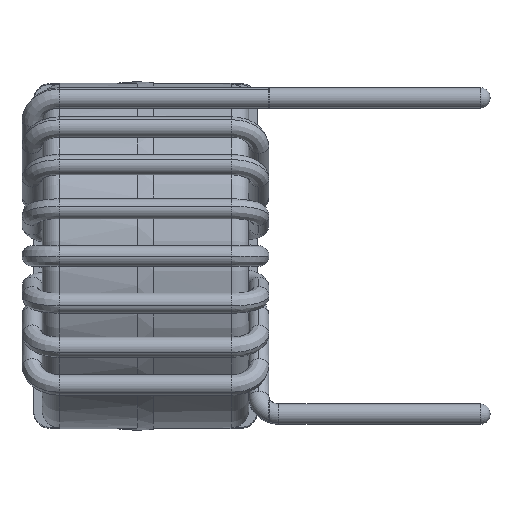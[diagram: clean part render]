
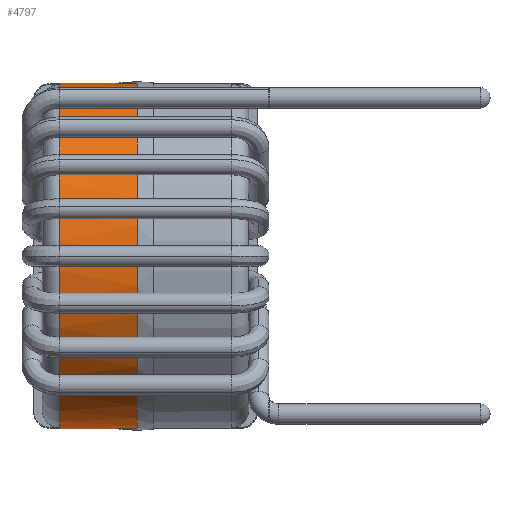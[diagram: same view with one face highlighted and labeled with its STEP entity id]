
A CAD part, left-side view. The second image highlights one B-rep face of the part: STEP entity #4797.
In plain terms, the highlighted cylindrical face has radius 10.207 mm (diameter 20.414 mm), a partial arc.
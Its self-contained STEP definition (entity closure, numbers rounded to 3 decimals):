
#65 = CIRCLE ( 'NONE', #15953, 10.207 ) ;
#117 = ORIENTED_EDGE ( 'NONE', *, *, #13117, .T. ) ;
#160 = ORIENTED_EDGE ( 'NONE', *, *, #12485, .T. ) ;
#542 = ORIENTED_EDGE ( 'NONE', *, *, #3172, .F. ) ;
#743 = VERTEX_POINT ( 'NONE', #8814 ) ;
#952 = LINE ( 'NONE', #1912, #2549 ) ;
#987 = CIRCLE ( 'NONE', #16869, 10.207 ) ;
#1373 = CARTESIAN_POINT ( 'NONE',  ( 0., 6.104, 10.207 ) ) ;
#1409 = VERTEX_POINT ( 'NONE', #18285 ) ;
#1439 = CARTESIAN_POINT ( 'NONE',  ( 0., 5.625, 0. ) ) ;
#1558 = VERTEX_POINT ( 'NONE', #18097 ) ;
#1656 = CYLINDRICAL_SURFACE ( 'NONE', #10077, 10.207 ) ;
#1687 = AXIS2_PLACEMENT_3D ( 'NONE', #18663, #18977, #1862 ) ;
#1862 = DIRECTION ( 'NONE',  ( 0., 0., 1. ) ) ;
#1912 = CARTESIAN_POINT ( 'NONE',  ( -1.125, 6.625, 10.145 ) ) ;
#2095 = CIRCLE ( 'NONE', #15131, 10.207 ) ;
#2248 = DIRECTION ( 'NONE',  ( 0., 0., 1. ) ) ;
#2549 = VECTOR ( 'NONE', #17159, 1000. ) ;
#2910 = VECTOR ( 'NONE', #19201, 1000. ) ;
#2980 = VERTEX_POINT ( 'NONE', #6412 ) ;
#3023 = LINE ( 'NONE', #11771, #2910 ) ;
#3154 = CARTESIAN_POINT ( 'NONE',  ( -0.375, 5.104, -10.2 ) ) ;
#3172 = EDGE_CURVE ( 'NONE', #5497, #743, #3023, .T. ) ;
#3246 = CIRCLE ( 'NONE', #1687, 10.207 ) ;
#3519 = EDGE_CURVE ( 'NONE', #18907, #743, #987, .T. ) ;
#3698 = DIRECTION ( 'NONE',  ( 0., -1., 0. ) ) ;
#3769 = CARTESIAN_POINT ( 'NONE',  ( -0.375, 5.625, -10.2 ) ) ;
#4328 = CARTESIAN_POINT ( 'NONE',  ( 0., 5.104, 10.207 ) ) ;
#4340 = ORIENTED_EDGE ( 'NONE', *, *, #6638, .T. ) ;
#4671 = ORIENTED_EDGE ( 'NONE', *, *, #8169, .T. ) ;
#4681 = DIRECTION ( 'NONE',  ( 0., -1., 0. ) ) ;
#4797 = ADVANCED_FACE ( 'NONE', ( #16324 ), #1656, .T. ) ;
#5353 = VECTOR ( 'NONE', #16063, 1000. ) ;
#5497 = VERTEX_POINT ( 'NONE', #18619 ) ;
#5619 = ORIENTED_EDGE ( 'NONE', *, *, #15530, .T. ) ;
#5765 = CARTESIAN_POINT ( 'NONE',  ( 0., 5.104, 0. ) ) ;
#5774 = VERTEX_POINT ( 'NONE', #3154 ) ;
#6176 = CARTESIAN_POINT ( 'NONE',  ( 0., 5.104, 0. ) ) ;
#6306 = DIRECTION ( 'NONE',  ( 0., -1., 0. ) ) ;
#6412 = CARTESIAN_POINT ( 'NONE',  ( -1.125, 5.104, 10.145 ) ) ;
#6492 = CARTESIAN_POINT ( 'NONE',  ( -1.125, 5.625, 10.145 ) ) ;
#6535 = VECTOR ( 'NONE', #15129, 1000. ) ;
#6638 = EDGE_CURVE ( 'NONE', #5497, #17483, #2095, .T. ) ;
#6830 = ORIENTED_EDGE ( 'NONE', *, *, #16430, .F. ) ;
#7153 = ORIENTED_EDGE ( 'NONE', *, *, #7301, .T. ) ;
#7279 = CARTESIAN_POINT ( 'NONE',  ( 0., 6.104, 0. ) ) ;
#7301 = EDGE_CURVE ( 'NONE', #17483, #2980, #952, .T. ) ;
#7337 = VERTEX_POINT ( 'NONE', #3769 ) ;
#7393 = VERTEX_POINT ( 'NONE', #11076 ) ;
#7747 = DIRECTION ( 'NONE',  ( 0., 0., 1. ) ) ;
#8063 = ORIENTED_EDGE ( 'NONE', *, *, #3519, .T. ) ;
#8169 = EDGE_CURVE ( 'NONE', #1558, #9394, #13110, .T. ) ;
#8517 = EDGE_CURVE ( 'NONE', #13956, #12783, #10546, .T. ) ;
#8654 = CARTESIAN_POINT ( 'NONE',  ( 0., 5.104, -10.207 ) ) ;
#8694 = CARTESIAN_POINT ( 'NONE',  ( -0.375, 6.625, -10.2 ) ) ;
#8814 = CARTESIAN_POINT ( 'NONE',  ( -0.375, 5.104, 10.2 ) ) ;
#9052 = VECTOR ( 'NONE', #4681, 1000. ) ;
#9176 = CARTESIAN_POINT ( 'NONE',  ( 0., 5.625, 0. ) ) ;
#9268 = DIRECTION ( 'NONE',  ( 0., -1., 0. ) ) ;
#9394 = VERTEX_POINT ( 'NONE', #13435 ) ;
#9723 = ORIENTED_EDGE ( 'NONE', *, *, #16542, .F. ) ;
#9835 = VECTOR ( 'NONE', #12094, 1000. ) ;
#9963 = ORIENTED_EDGE ( 'NONE', *, *, #10271, .T. ) ;
#10024 = CARTESIAN_POINT ( 'NONE',  ( -1.125, 5.104, -10.145 ) ) ;
#10077 = AXIS2_PLACEMENT_3D ( 'NONE', #7279, #10453, #12616 ) ;
#10271 = EDGE_CURVE ( 'NONE', #11458, #1558, #15166, .T. ) ;
#10453 = DIRECTION ( 'NONE',  ( 0., -1., 0. ) ) ;
#10546 = LINE ( 'NONE', #16737, #9835 ) ;
#10854 = AXIS2_PLACEMENT_3D ( 'NONE', #9176, #14480, #16957 ) ;
#10867 = EDGE_LOOP ( 'NONE', ( #6830, #8063, #542, #4340, #7153, #16206, #16966, #117, #14808, #5619, #9963, #4671, #160, #9723 ) ) ;
#11076 = CARTESIAN_POINT ( 'NONE',  ( 0., 0.51, 10.207 ) ) ;
#11086 = CIRCLE ( 'NONE', #12622, 10.207 ) ;
#11132 = DIRECTION ( 'NONE',  ( 0., -1., 0. ) ) ;
#11458 = VERTEX_POINT ( 'NONE', #8654 ) ;
#11771 = CARTESIAN_POINT ( 'NONE',  ( -0.375, 6.625, 10.2 ) ) ;
#11786 = EDGE_CURVE ( 'NONE', #7337, #5774, #12163, .T. ) ;
#12094 = DIRECTION ( 'NONE',  ( 0., -1., 0. ) ) ;
#12123 = DIRECTION ( 'NONE',  ( 0., -1., 0. ) ) ;
#12163 = LINE ( 'NONE', #8694, #12858 ) ;
#12256 = CARTESIAN_POINT ( 'NONE',  ( 0., 5.104, 0. ) ) ;
#12485 = EDGE_CURVE ( 'NONE', #9394, #1409, #3246, .T. ) ;
#12616 = DIRECTION ( 'NONE',  ( 0., 0., -1. ) ) ;
#12622 = AXIS2_PLACEMENT_3D ( 'NONE', #5765, #14493, #17894 ) ;
#12783 = VERTEX_POINT ( 'NONE', #10024 ) ;
#12858 = VECTOR ( 'NONE', #3698, 1000. ) ;
#13110 = LINE ( 'NONE', #19302, #9052 ) ;
#13117 = EDGE_CURVE ( 'NONE', #13956, #7337, #17123, .T. ) ;
#13435 = CARTESIAN_POINT ( 'NONE',  ( 0., 0.5, -10.207 ) ) ;
#13575 = CARTESIAN_POINT ( 'NONE',  ( 0., 6.104, 10.207 ) ) ;
#13956 = VERTEX_POINT ( 'NONE', #14542 ) ;
#14480 = DIRECTION ( 'NONE',  ( 0., -1., 0. ) ) ;
#14493 = DIRECTION ( 'NONE',  ( 0., -1., 0. ) ) ;
#14494 = LINE ( 'NONE', #1373, #6535 ) ;
#14542 = CARTESIAN_POINT ( 'NONE',  ( -1.125, 5.625, -10.145 ) ) ;
#14808 = ORIENTED_EDGE ( 'NONE', *, *, #11786, .T. ) ;
#15129 = DIRECTION ( 'NONE',  ( 0., -1., 0. ) ) ;
#15131 = AXIS2_PLACEMENT_3D ( 'NONE', #1439, #9268, #16139 ) ;
#15166 = LINE ( 'NONE', #18848, #18260 ) ;
#15212 = EDGE_CURVE ( 'NONE', #2980, #12783, #65, .T. ) ;
#15530 = EDGE_CURVE ( 'NONE', #5774, #11458, #11086, .T. ) ;
#15953 = AXIS2_PLACEMENT_3D ( 'NONE', #12256, #6306, #2248 ) ;
#16063 = DIRECTION ( 'NONE',  ( 0., -1., 0. ) ) ;
#16139 = DIRECTION ( 'NONE',  ( 0., 0., 1. ) ) ;
#16206 = ORIENTED_EDGE ( 'NONE', *, *, #15212, .T. ) ;
#16324 = FACE_OUTER_BOUND ( 'NONE', #10867, .T. ) ;
#16430 = EDGE_CURVE ( 'NONE', #18907, #7393, #14494, .T. ) ;
#16542 = EDGE_CURVE ( 'NONE', #7393, #1409, #16985, .T. ) ;
#16737 = CARTESIAN_POINT ( 'NONE',  ( -1.125, 6.625, -10.145 ) ) ;
#16869 = AXIS2_PLACEMENT_3D ( 'NONE', #6176, #12123, #7747 ) ;
#16957 = DIRECTION ( 'NONE',  ( 0., 0., -1. ) ) ;
#16966 = ORIENTED_EDGE ( 'NONE', *, *, #8517, .F. ) ;
#16985 = LINE ( 'NONE', #13575, #5353 ) ;
#17123 = CIRCLE ( 'NONE', #10854, 10.207 ) ;
#17159 = DIRECTION ( 'NONE',  ( 0., -1., 0. ) ) ;
#17483 = VERTEX_POINT ( 'NONE', #6492 ) ;
#17894 = DIRECTION ( 'NONE',  ( 0., 0., 1. ) ) ;
#18097 = CARTESIAN_POINT ( 'NONE',  ( 0., 0.51, -10.207 ) ) ;
#18260 = VECTOR ( 'NONE', #11132, 1000. ) ;
#18285 = CARTESIAN_POINT ( 'NONE',  ( 0., 0.5, 10.207 ) ) ;
#18619 = CARTESIAN_POINT ( 'NONE',  ( -0.375, 5.625, 10.2 ) ) ;
#18663 = CARTESIAN_POINT ( 'NONE',  ( 0., 0.5, 0. ) ) ;
#18848 = CARTESIAN_POINT ( 'NONE',  ( 0., 6.104, -10.207 ) ) ;
#18907 = VERTEX_POINT ( 'NONE', #4328 ) ;
#18977 = DIRECTION ( 'NONE',  ( 0., 1., 0. ) ) ;
#19201 = DIRECTION ( 'NONE',  ( 0., -1., 0. ) ) ;
#19302 = CARTESIAN_POINT ( 'NONE',  ( 0., 6.104, -10.207 ) ) ;
